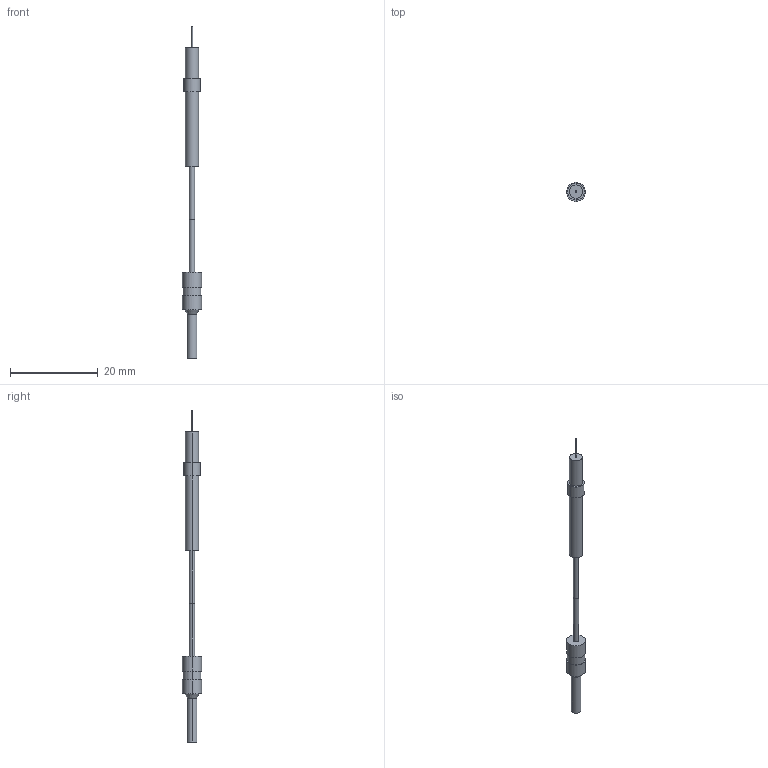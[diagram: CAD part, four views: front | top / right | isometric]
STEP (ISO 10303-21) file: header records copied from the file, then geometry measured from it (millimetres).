
FILE_DESCRIPTION (( 'STEP AP203' ), '1' );
FILE_NAME ('FT-E12.STEP', '2005-11-09T08:20:58', ( '' ), ( '' ), 'SwSTEP 2.0', 'SolidWorks 2004073', '' );
FILE_SCHEMA (( 'CONFIG_CONTROL_DESIGN' ));
Length unit declared in the file: millimetre
Products named in the file (1): FT-E12
Bounding box: 4.33 x 4.33 x 75.5 mm (x, y, z)
Volume: 396.4 mm3; surface area: 600.4 mm2
Topology: 2 solids, 2 shells, 37 faces, 70 edges, 46 vertices
Faces by surface type: cylinder 22, plane 13, cone 2
Entity records: 1029 total; most frequent: DIRECTION 192, CARTESIAN_POINT 154, ORIENTED_EDGE 140, AXIS2_PLACEMENT_3D 84, EDGE_CURVE 70, EDGE_LOOP 46, VERTEX_POINT 46, CIRCLE 46
